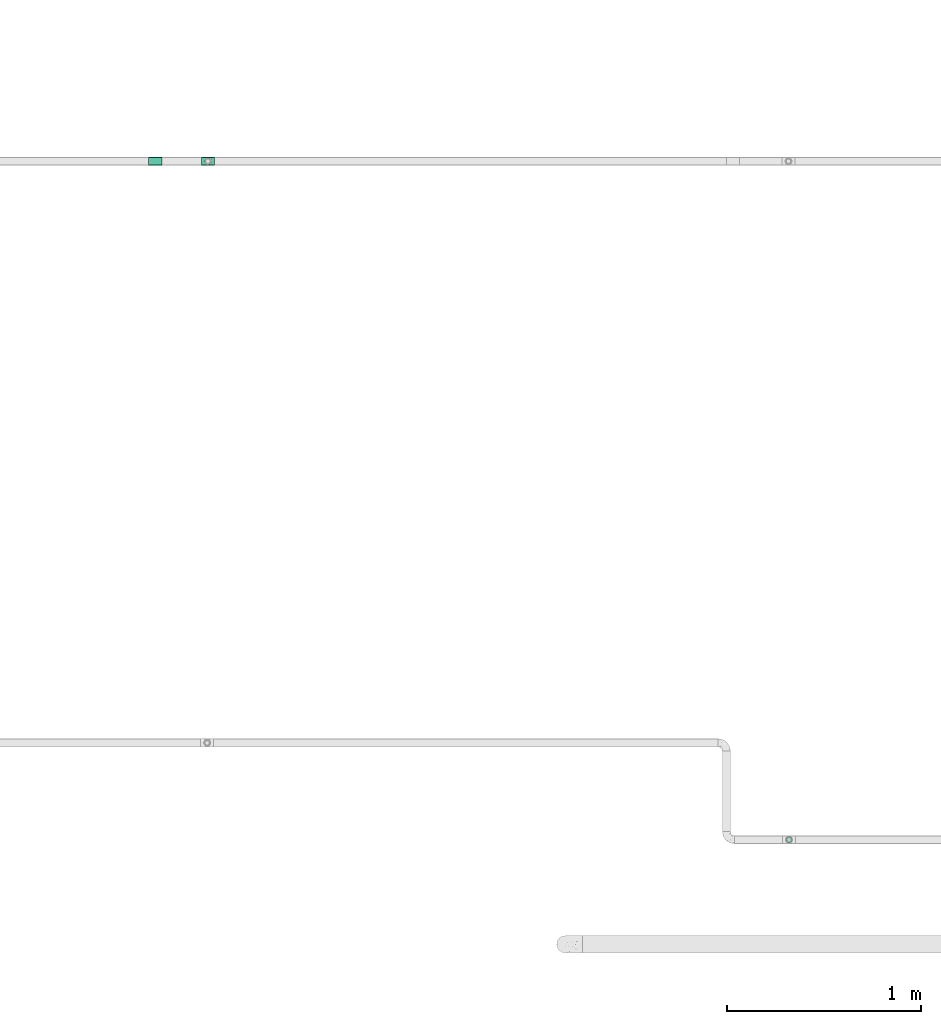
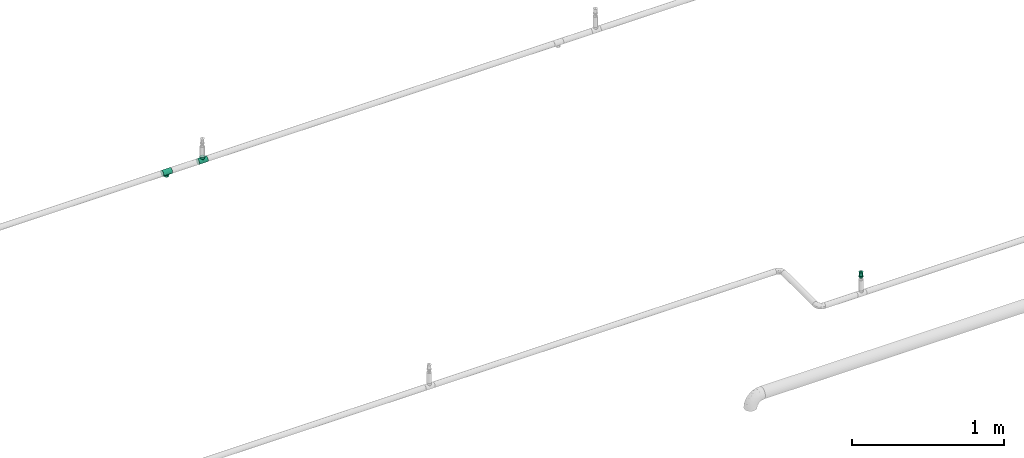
# One storey, part 57 of 94: 2 flow fittings, 1 flow terminal.
"""IFC2X3 building model written with IfcOpenShell, lengths in millimetres."""

from ifc_helpers import new_model, entity, si_unit, converted_unit, derived_unit, direction, frame, origin_with_axes, place, context, subcontext, project, spatial, open_shell, surface_model, source, transform, mapped, type_object, element, save


model = new_model("IFC2X3")

# Units and contexts
model_context = context("Model", 3, precision=0.01, world=frame((0.0, 4.29681676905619e-09, 0.0)), true_north=direction((4.01073788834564e-13, 1.0)))
plan_context = context("Plan", 3, precision=0.01, world=frame((0.0, 4.29681676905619e-09, 0.0)), true_north=direction((4.01073788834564e-13, 1.0)))
body_context = subcontext(model_context, "Body", "Model", "MODEL_VIEW")
ifc_project = project(units=[converted_unit("PLANEANGLEUNIT", "DEGREE", entity("IfcPositiveLengthMeasure", 0.0174532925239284), si_unit("PLANEANGLEUNIT", "RADIAN"), dimensions=[0, 0, 0, 0, 0, 0, 0]), si_unit("AREAUNIT", "SQUARE_METRE"), si_unit("LENGTHUNIT", "METRE", prefix="MILLI"), si_unit("MASSUNIT", "GRAM", prefix="KILO"), si_unit("POWERUNIT", "WATT"), si_unit("PRESSUREUNIT", "PASCAL"), si_unit("FORCEUNIT", "NEWTON", prefix="KILO"), si_unit("ELECTRICCURRENTUNIT", "AMPERE"), si_unit("THERMODYNAMICTEMPERATUREUNIT", "DEGREE_CELSIUS"), si_unit("TIMEUNIT", "SECOND"), si_unit("VOLUMEUNIT", "CUBIC_METRE"), derived_unit("LINEARVELOCITYUNIT", [(si_unit("LENGTHUNIT", "METRE"), 1), (si_unit("TIMEUNIT", "SECOND"), -1)]), derived_unit("VOLUMETRICFLOWRATEUNIT", [(si_unit("VOLUMEUNIT", "CUBIC_METRE"), 1), (si_unit("TIMEUNIT", "SECOND"), -1)]), derived_unit("THERMALTRANSMITTANCEUNIT", [(si_unit("POWERUNIT", "WATT"), 1), (si_unit("THERMODYNAMICTEMPERATUREUNIT", "KELVIN"), -1), (si_unit("AREAUNIT", "SQUARE_METRE"), -1)])], contexts=[model_context, plan_context])

# Site, building, storey
site_placement = place(None, frame((0.0, -4.29681676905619e-09, 0.0), z_axis=(0.0, 0.0, 1.0), x_axis=(1.0, 0.0, 0.0)))
site = spatial("IfcSite", under=ifc_project, at=site_placement, CompositionType="ELEMENT")
building_placement = place(site_placement, frame((0.0, 4.29681676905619e-09, 0.0), z_axis=(0.0, 0.0, 1.0), x_axis=(1.0, 0.0, 0.0)))
building = spatial("IfcBuilding", under=site, at=building_placement, Name="mc-building", CompositionType="ELEMENT")
storey_placement = place(building_placement, frame((0.0, 0.0, 200300.0), z_axis=(0.0, 0.0, 1.0), x_axis=(1.0, 0.0, 0.0)))
storey = spatial("IfcBuildingStorey", under=building, at=storey_placement, Name="Nivå C", CompositionType="ELEMENT", Elevation=200300.0)

# Flow fittings
pipe_fitting_type = type_object("IfcPipeFittingType", Name="magi_pipe_fe_tee_centric_90_NOR", PredefinedType="JUNCTION")
shared_shape_1 = source(origin_with_axes(), body_context, "Body", "SurfaceModel", [
    surface_model("IfcShellBasedSurfaceModel", [(-33.8, 0.0, -21.2), (-33.8, -5.48696, -20.47763), (-33.8, 5.48696, -20.47763), (-33.8, 10.6, -18.35974), (-33.8, 14.99066, -14.99066), (-33.8, -20.47763, 5.48696), (-33.8, 18.35974, -10.6), (-33.8, 10.6, 18.35974), (-33.8, -14.99066, -14.99066), (-33.8, -18.35974, -10.6), (-33.8, -10.6, -18.35974), (-33.8, -20.47763, -5.48696), (-33.8, -21.2, 0.0), (-33.8, 18.35974, 10.6), (-33.8, 20.47763, -5.48696), (-33.8, 20.47763, 5.48696), (-33.8, 21.2, 0.0), (-33.8, 14.99066, 14.99066), (-33.8, 5.48696, 20.47763), (-33.8, 0.0, 21.2), (-33.8, -18.35974, 10.6), (-33.8, -14.99066, 14.99066), (-33.8, -10.6, 18.35974), (-33.8, -5.48696, 20.47763), (33.8, 5.48696, -20.47763), (33.8, -5.48696, -20.47763), (33.8, 0.0, -21.2), (33.8, 14.99066, -14.99066), (33.8, 10.6, -18.35974), (33.8, 18.35974, -10.6), (33.8, 20.47763, -5.48696), (33.8, -21.2, 0.0), (33.8, -10.6, -18.35974), (33.8, -18.35974, -10.6), (33.8, -14.99066, -14.99066), (33.8, -20.47763, -5.48696), (33.8, -20.47763, 5.48696), (33.8, 21.2, 0.0), (33.8, 20.47763, 5.48696), (33.8, 18.35974, 10.6), (33.8, 10.6, 18.35974), (33.8, 14.99066, 14.99066), (33.8, 0.0, 21.2), (33.8, 5.48696, 20.47763), (33.8, -14.99066, 14.99066), (33.8, -18.35974, 10.6), (33.8, -10.6, 18.35974), (33.8, -5.48696, 20.47763), (16.9, -21.2, 0.0), (15.78624, -20.32327, 6.03364), (12.81343, -18.11115, 11.01935), (8.52479, -15.37862, 14.59239), (3.07939, -13.16482, 16.61708), (-16.9, -21.2, 0.0), (-15.78686, -20.32375, 6.032), (-8.52604, -15.37932, 14.59166), (-3.0848, -13.16609, 16.61608), (-12.81602, -18.11299, 11.01634), (3.07939, -13.16482, -16.61708), (12.81343, -18.11115, -11.01935), (8.52479, -15.37862, -14.59239), (15.78624, -20.32327, -6.03364), (-3.0848, -13.16609, -16.61608), (-8.52604, -15.37932, -14.59166), (-12.81602, -18.11299, -11.01634), (-15.78686, -20.32375, -6.032), (4.37404, -31.8, -16.32415), (-16.9, -31.8, 0.0), (0.0, -31.8, -16.9), (14.63583, -31.8, -8.45), (8.45, -31.8, -14.63583), (16.32415, -31.8, -4.37404), (11.9501, -31.8, -11.9501), (-11.9501, -31.8, -11.9501), (-8.45, -31.8, -14.63583), (-4.37404, -31.8, -16.32415), (-14.63583, -31.8, -8.45), (-16.32415, -31.8, -4.37404), (16.9, -31.8, 0.0), (8.45, -31.8, 14.63583), (16.32415, -31.8, 4.37404), (14.63583, -31.8, 8.45), (-8.45, -31.8, 14.63583), (11.9501, -31.8, 11.9501), (4.37404, -31.8, 16.32415), (-16.32415, -31.8, 4.37404), (-11.9501, -31.8, 11.9501), (-14.63583, -31.8, 8.45), (0.0, -31.8, 16.9), (-4.37404, -31.8, 16.32415), (-16.34343, -20.76188, 3.016), (16.34312, -20.76163, 3.01682), (-0.00271, -13.16546, 16.61658), (16.34312, -20.76163, -3.01682), (-0.00271, -13.16546, -16.61658), (-16.34343, -20.76188, -3.016)], [open_shell([[[0, 1, 2]], [[3, 2, 4]], [[5, 2, 1]], [[4, 2, 6]], [[6, 2, 7]], [[8, 9, 10]], [[1, 10, 9]], [[9, 11, 1]], [[12, 1, 11]], [[5, 1, 12]], [[13, 14, 6]], [[13, 15, 16]], [[6, 7, 13]], [[5, 7, 2]], [[17, 13, 7]], [[18, 7, 19]], [[20, 21, 5]], [[22, 5, 21]], [[23, 19, 22]], [[7, 5, 22]], [[22, 19, 7]], [[16, 14, 13]], [[24, 25, 26]], [[27, 24, 28]], [[29, 30, 24]], [[29, 24, 27]], [[31, 24, 30]], [[32, 33, 34]], [[33, 32, 25]], [[33, 31, 35]], [[31, 33, 25]], [[25, 24, 31]], [[30, 36, 31]], [[37, 38, 39]], [[37, 39, 40]], [[37, 40, 36]], [[40, 39, 41]], [[42, 40, 43]], [[36, 44, 45]], [[44, 36, 46]], [[46, 42, 47]], [[46, 36, 40]], [[40, 42, 46]], [[37, 36, 30]], [[31, 36, 48]], [[49, 48, 36]], [[36, 45, 49]], [[45, 44, 50]], [[51, 50, 44]], [[52, 51, 44]], [[44, 46, 52]], [[45, 50, 49]], [[53, 54, 5]], [[5, 12, 53]], [[54, 20, 5]], [[55, 56, 21]], [[20, 57, 21]], [[57, 20, 54]], [[21, 57, 55]], [[56, 22, 21]], [[52, 22, 56]], [[19, 47, 42]], [[23, 46, 47]], [[18, 42, 43]], [[39, 38, 15]], [[17, 40, 41]], [[13, 41, 39]], [[43, 40, 7]], [[16, 38, 37]], [[22, 46, 23]], [[23, 47, 19]], [[18, 19, 42]], [[43, 7, 18]], [[7, 40, 17]], [[13, 17, 41]], [[15, 13, 39]], [[38, 16, 15]], [[46, 22, 52]], [[6, 30, 29]], [[14, 37, 30]], [[4, 29, 27]], [[26, 25, 1]], [[2, 28, 24]], [[0, 24, 26]], [[27, 28, 3]], [[10, 25, 32]], [[16, 37, 14]], [[14, 30, 6]], [[4, 6, 29]], [[27, 3, 4]], [[3, 28, 2]], [[0, 2, 24]], [[1, 0, 26]], [[25, 10, 1]], [[32, 58, 10]], [[34, 59, 60]], [[59, 34, 33]], [[60, 58, 34]], [[34, 58, 32]], [[35, 31, 48]], [[35, 61, 33]], [[61, 35, 48]], [[33, 61, 59]], [[62, 63, 8]], [[8, 64, 9]], [[64, 8, 63]], [[62, 8, 10]], [[65, 53, 11]], [[65, 11, 9]], [[11, 53, 12]], [[65, 9, 64]], [[58, 62, 10]], [[66, 67, 68]], [[69, 66, 70]], [[69, 71, 66]], [[69, 70, 72]], [[67, 66, 71]], [[68, 73, 74]], [[74, 75, 68]], [[76, 67, 77]], [[73, 68, 76]], [[67, 76, 68]], [[71, 78, 67]], [[79, 78, 80]], [[79, 80, 81]], [[82, 67, 79]], [[79, 81, 83]], [[82, 79, 84]], [[85, 86, 87]], [[86, 85, 82]], [[82, 88, 89]], [[85, 67, 82]], [[84, 88, 82]], [[79, 67, 78]], [[85, 90, 67]], [[57, 87, 86]], [[85, 87, 54]], [[86, 82, 55]], [[85, 54, 90]], [[90, 53, 67]], [[54, 87, 57]], [[91, 49, 80]], [[55, 89, 56]], [[55, 57, 86]], [[88, 52, 92]], [[55, 82, 89]], [[52, 88, 84]], [[79, 51, 84]], [[50, 83, 81]], [[83, 51, 79]], [[81, 80, 49]], [[83, 50, 51]], [[51, 52, 84]], [[78, 91, 80]], [[49, 50, 81]], [[91, 78, 48]], [[88, 56, 89]], [[92, 56, 88]], [[71, 93, 78]], [[59, 69, 72]], [[71, 69, 61]], [[72, 70, 60]], [[93, 48, 78]], [[61, 69, 59]], [[60, 66, 58]], [[60, 59, 72]], [[68, 62, 94]], [[60, 70, 66]], [[95, 67, 53]], [[95, 65, 77]], [[71, 61, 93]], [[75, 62, 68]], [[65, 76, 77]], [[73, 76, 64]], [[68, 58, 66]], [[75, 63, 62]], [[63, 75, 74]], [[74, 73, 63]], [[63, 73, 64]], [[64, 76, 65]], [[67, 95, 77]], [[94, 58, 68]]])]),
])
for number, where, z_axis, x_axis, name in (
    (1, (524502.26879, 413500.1625, 2850.0), (0.0, -1.0, 0.0), (-1.0, 0.0, 0.0), "magi_pipe_fe_tee_centric_90_NOR"),
    (2, (524230.7831, 413500.1625, 2850.0), (0.0, 1.0, 0.0), (-1.0, 0.0, 0.0), "magi_pipe_fe_tee_centric_90_NOR"),
):
    element("IfcFlowFitting", number, at=place(storey_placement, frame(where, z_axis=z_axis, x_axis=x_axis)), inside=storey, type_object=pipe_fitting_type, Name=name, context=body_context, shape_type="MappedRepresentation", body=[
        mapped(shared_shape_1, transform((0.0, 0.0, 0.0), scale=1.0)),
    ])

# Flow terminal
fire_suppression_terminal_type = type_object("IfcFireSuppressionTerminalType", Name="68DGR-STD-STÅENDE", PredefinedType="NOTDEFINED")
shared_shape_2 = source(origin_with_axes(), body_context, "Body", "SurfaceModel", [
    surface_model("IfcShellBasedSurfaceModel", [(12.55704, 3.36465, 21.14766), (13.0, 0.0, 21.14766), (12.55704, -3.36465, 21.14766), (-12.55704, -3.36465, 21.14766), (-11.25833, -6.5, 21.14766), (-11.25833, -6.5, 51.0), (3.36465, -12.55704, 51.0), (3.36465, -12.55704, 21.14766), (6.5, -11.25833, 21.14766), (9.19239, -9.19239, 21.14766), (11.25833, -6.5, 21.14766), (9.19239, -9.19239, 51.0), (6.5, -11.25833, 51.0), (11.25833, -6.5, 51.0), (12.55704, -3.36465, 51.0), (13.0, 0.0, 51.0), (9.19239, 9.19239, 51.0), (11.25833, 6.5, 21.14766), (9.19239, 9.19239, 21.14766), (11.25833, 6.5, 51.0), (12.55704, 3.36465, 51.0), (6.5, 11.25833, 51.0), (6.5, 11.25833, 21.14766), (3.36465, 12.55704, 21.14766), (3.36465, 12.55704, 51.0), (-11.25833, 6.5, 51.0), (-11.25833, 6.5, 21.14766), (-12.55704, 3.36465, 21.14766), (0.0, -2.5, 51.0), (-2.5, 0.0, 51.0), (0.0, 2.5, 51.0), (2.5, 0.0, 51.0), (11.31371, 11.31371, 53.0), (-11.31371, 11.31371, 53.0), (-11.31371, -11.31371, 53.0), (11.31371, -11.31371, 53.0), (1.62635, 1.62635, 51.0), (2.16506, 1.25, 51.0), (1.99186, 1.15, 51.0), (-1.76777, 1.76777, 51.0), (-1.25, 2.16506, 51.0), (-1.62635, 1.62635, 51.0), (1.99186, -1.15, 51.0), (2.16506, -1.25, 51.0), (1.62635, -1.62635, 51.0), (-1.62635, -1.62635, 51.0), (-1.25, -2.16506, 51.0), (-1.76777, -1.76777, 51.0), (0.0, 7.3, 0.0), (1.94114, 7.24444, 0.0), (1.88938, 7.05126, 0.0), (5.16188, 5.16188, 0.0), (6.49519, 3.75, 0.0), (6.32199, 3.65, 0.0), (-5.3033, 5.3033, 0.0), (-3.75, 6.49519, 0.0), (-5.16188, 5.16188, 0.0), (6.32199, -3.65, 0.0), (6.49519, -3.75, 0.0), (5.16188, -5.16188, 0.0), (1.88938, -7.05126, 0.0), (1.94114, -7.24444, 0.0), (0.0, -7.3, 0.0), (-5.16188, -5.16188, 0.0), (-3.75, -6.49519, 0.0), (-5.3033, -5.3033, 0.0), (-3.36465, 12.55704, 51.0), (-6.5, 11.25833, 51.0), (0.0, 13.0, 51.0), (-9.19239, 9.19239, 51.0), (0.0, -13.0, 51.0), (-9.19239, -9.19239, 51.0), (-12.55704, -3.36465, 51.0), (-6.5, -11.25833, 51.0), (-3.36465, -12.55704, 51.0), (-7.5, 0.0, -0.1), (-7.24444, 1.94114, 0.1), (-7.24444, 1.94114, -0.1), (-6.49519, 3.75, 0.1), (-6.49519, 3.75, -0.1), (-3.75, 6.49519, -0.1), (-5.3033, 5.3033, -0.1), (-3.75, 6.49519, 0.1), (-5.3033, 5.3033, 0.1), (-1.94114, 7.24444, -0.1), (-1.94114, 7.24444, 0.1), (-7.5, 0.0, 0.1), (0.0, 7.5, 0.1), (0.0, 7.5, -0.1), (1.94114, 7.24444, 0.1), (1.94114, 7.24444, -0.1), (3.75, 6.49519, 0.1), (3.75, 6.49519, -0.1), (6.49519, 3.75, -0.1), (5.3033, 5.3033, -0.1), (6.49519, 3.75, 0.1), (5.3033, 5.3033, 0.1), (7.24444, 1.94114, -0.1), (7.24444, 1.94114, 0.1), (7.5, 0.0, 0.1), (7.5, 0.0, -0.1), (-7.24444, -1.94114, 0.1), (7.24444, -1.94114, 0.1), (5.3033, -5.3033, 0.1), (6.49519, -3.75, 0.1), (-6.49519, -3.75, 0.1), (0.0, -7.5, 0.1), (1.94114, -7.24444, 0.1), (3.75, -6.49519, 0.1), (-3.75, -6.49519, 0.1), (-1.94114, -7.24444, 0.1), (-5.3033, -5.3033, 0.1), (0.0, -7.5, -0.1), (-6.49519, -3.75, -0.1), (1.94114, -7.24444, -0.1), (3.75, -6.49519, -0.1), (5.3033, -5.3033, -0.1), (7.24444, -1.94114, -0.1), (6.49519, -3.75, -0.1), (-3.75, -6.49519, -0.1), (-5.3033, -5.3033, -0.1), (-1.94114, -7.24444, -0.1), (-7.24444, -1.94114, -0.1), (16.0, 0.0, 53.0), (0.0, -16.0, 53.0), (-16.0, 0.0, 53.0), (0.0, 16.0, 53.0), (0.64705, 2.41481, 57.0), (0.0, 2.5, 57.0), (1.25, 2.16506, 57.0), (-2.5, 0.0, 57.0), (1.76777, 1.76777, 57.0), (2.41481, 0.64705, 57.0), (2.16506, 1.25, 57.0), (-0.64705, 2.41481, 57.0), (-1.25, 2.16506, 57.0), (-1.76777, 1.76777, 57.0), (-2.16506, 1.25, 57.0), (-2.41481, 0.64705, 57.0), (2.5, 0.0, 57.0), (1.76777, -1.76777, 57.0), (2.16506, -1.25, 57.0), (2.41481, -0.64705, 57.0), (-2.41481, -0.64705, 57.0), (0.64705, -2.41481, 57.0), (1.25, -2.16506, 57.0), (0.0, -2.5, 57.0), (-1.76777, -1.76777, 57.0), (-2.16506, -1.25, 57.0), (-1.25, -2.16506, 57.0), (-0.64705, -2.41481, 57.0), (1.15, -1.99186, 51.0), (1.76777, -1.76777, 51.0), (1.25, -2.16506, 51.0), (0.59528, -2.22163, 51.0), (0.0, -2.3, 51.0), (0.64705, -2.41481, 51.0), (2.22163, -0.59528, 51.0), (2.3, 0.0, 51.0), (2.41481, -0.64705, 51.0), (-0.64705, -2.41481, 51.0), (-0.59528, -2.22163, 51.0), (-1.15, -1.99186, 51.0), (-2.16506, -1.25, 51.0), (-1.99186, -1.15, 51.0), (-2.22163, -0.59528, 51.0), (-2.3, 0.0, 51.0), (-2.41481, -0.64705, 51.0), (2.22163, 0.59528, 51.0), (2.41481, 0.64705, 51.0), (1.76777, 1.76777, 51.0), (1.15, 1.99186, 51.0), (1.25, 2.16506, 51.0), (0.59528, 2.22163, 51.0), (0.0, 2.3, 51.0), (0.64705, 2.41481, 51.0), (-1.99186, 1.15, 51.0), (-2.16506, 1.25, 51.0), (-2.41481, 0.64705, 51.0), (-2.22163, 0.59528, 51.0), (-0.64705, 2.41481, 51.0), (-0.59528, 2.22163, 51.0), (-1.15, 1.99186, 51.0), (-2.22163, 0.59528, 56.8), (-1.99186, 1.15, 56.8), (-1.15, 1.99186, 56.8), (-1.62635, 1.62635, 56.8), (-0.59528, 2.22163, 56.8), (-2.3, 0.0, 56.8), (0.0, 2.3, 56.8), (0.59528, 2.22163, 56.8), (1.15, 1.99186, 56.8), (1.99186, 1.15, 56.8), (1.62635, 1.62635, 56.8), (2.22163, 0.59528, 56.8), (2.3, 0.0, 56.8), (2.22163, -0.59528, 56.8), (1.99186, -1.15, 56.8), (1.62635, -1.62635, 56.8), (1.15, -1.99186, 56.8), (0.59528, -2.22163, 56.8), (0.0, -2.3, 56.8), (-1.99186, -1.15, 56.8), (-2.22163, -0.59528, 56.8), (-1.62635, -1.62635, 56.8), (-0.59528, -2.22163, 56.8), (-1.15, -1.99186, 56.8), (8.0, -13.85641, 13.0), (4.1411, -15.45481, 13.0), (0.0, -16.0, 13.0), (-4.1411, -15.45481, 13.0), (15.45481, -4.1411, 13.0), (13.85641, -8.0, 13.0), (11.31371, -11.31371, 13.0), (-16.0, 0.0, 13.0), (-8.0, -13.85641, 13.0), (-11.31371, -11.31371, 13.0), (-13.85641, -8.0, 13.0), (-15.45481, -4.1411, 13.0), (15.45481, 4.1411, 13.0), (4.1411, 15.45481, 13.0), (13.85641, 8.0, 13.0), (8.0, 13.85641, 13.0), (11.31371, 11.31371, 13.0), (-15.45481, 4.1411, 13.0), (-11.31371, 11.31371, 13.0), (-8.0, 13.85641, 13.0), (-13.85641, 8.0, 13.0), (-4.1411, 15.45481, 13.0), (0.0, 16.0, 13.0), (16.0, 0.0, 13.0), (7.05126, 1.88938, 12.8), (1.88938, 7.05126, 12.8), (3.65, 6.32199, 12.8), (6.32199, 3.65, 12.8), (5.16188, 5.16188, 12.8), (7.3, 0.0, 12.8), (0.0, 7.3, 12.8), (-3.65, 6.32199, 12.8), (-1.88938, 7.05126, 12.8), (-5.16188, 5.16188, 12.8), (-7.05126, 1.88938, 12.8), (-6.32199, 3.65, 12.8), (7.05126, -1.88938, 12.8), (0.0, -7.3, 12.8), (6.32199, -3.65, 12.8), (3.65, -6.32199, 12.8), (5.16188, -5.16188, 12.8), (1.88938, -7.05126, 12.8), (-7.3, 0.0, 12.8), (-6.32199, -3.65, 12.8), (-7.05126, -1.88938, 12.8), (-1.88938, -7.05126, 12.8), (-5.16188, -5.16188, 12.8), (-3.65, -6.32199, 12.8), (-7.05126, 1.88938, 0.0), (-7.3, 0.0, 0.0), (-6.32199, 3.65, 0.0), (-3.65, 6.32199, 0.0), (-1.88938, 7.05126, 0.0), (3.65, 6.32199, 0.0), (7.05126, 1.88938, 0.0), (7.3, 0.0, 0.0), (3.75, 6.49519, 13.0), (1.94114, 7.24444, 13.0), (7.5, 0.0, 13.0), (5.3033, 5.3033, 13.0), (7.24444, 1.94114, 13.0), (6.49519, 3.75, 13.0), (-5.3033, 5.3033, 13.0), (-7.24444, -1.94114, 13.0), (-1.94114, 7.24444, 13.0), (-3.75, 6.49519, 13.0), (0.0, 7.5, 13.0), (-6.49519, 3.75, 13.0), (-7.24444, 1.94114, 13.0), (7.24444, -1.94114, 13.0), (5.3033, -5.3033, 13.0), (6.49519, -3.75, 13.0), (-6.49519, -3.75, 13.0), (0.0, -7.5, 13.0), (1.94114, -7.24444, 13.0), (3.75, -6.49519, 13.0), (-7.5, 0.0, 13.0), (-3.75, -6.49519, 13.0), (-1.94114, -7.24444, 13.0), (-5.3033, -5.3033, 13.0), (3.65, -6.32199, 0.0), (5.3033, -5.3033, 0.0), (3.75, -6.49519, 0.0), (0.0, -7.5, 0.0), (7.05126, -1.88938, 0.0), (7.24444, -1.94114, 0.0), (7.5, 0.0, 0.0), (-1.94114, -7.24444, 0.0), (-1.88938, -7.05126, 0.0), (-3.65, -6.32199, 0.0), (-6.49519, -3.75, 0.0), (-6.32199, -3.65, 0.0), (-7.05126, -1.88938, 0.0), (-7.24444, -1.94114, 0.0), (-7.5, 0.0, 0.0), (7.24444, 1.94114, 0.0), (5.3033, 5.3033, 0.0), (3.75, 6.49519, 0.0), (0.0, 7.5, 0.0), (-6.49519, 3.75, 0.0), (-7.24444, 1.94114, 0.0), (-1.94114, 7.24444, 0.0), (-12.55704, 3.36465, 51.0), (-13.0, 0.0, 51.0), (0.0, -13.0, 21.14766), (-3.36465, -12.55704, 21.14766), (-6.5, -11.25833, 21.14766), (-9.19239, -9.19239, 21.14766), (-13.0, 0.0, 21.14766), (-9.19239, 9.19239, 21.14766), (-6.5, 11.25833, 21.14766), (-3.36465, 12.55704, 21.14766), (0.0, 13.0, 21.14766), (11.31371, 11.31371, 19.0), (8.0, 13.85641, 19.0), (4.1411, 15.45481, 19.0), (-8.0, 13.85641, 19.0), (16.0, 0.0, 19.0), (15.45481, 4.1411, 19.0), (13.85641, 8.0, 19.0), (-4.1411, 15.45481, 19.0), (0.0, 16.0, 19.0), (-11.31371, 11.31371, 19.0), (-13.85641, 8.0, 19.0), (-15.45481, 4.1411, 19.0), (15.45481, -4.1411, 19.0), (11.31371, -11.31371, 19.0), (13.85641, -8.0, 19.0), (-16.0, 0.0, 19.0), (0.0, -16.0, 19.0), (4.1411, -15.45481, 19.0), (8.0, -13.85641, 19.0), (-13.85641, -8.0, 19.0), (-11.31371, -11.31371, 19.0), (-15.45481, -4.1411, 19.0), (-8.0, -13.85641, 19.0), (-4.1411, -15.45481, 19.0)], [open_shell([[[0, 1, 2]], [[3, 4, 5]], [[6, 7, 8]], [[9, 10, 11]], [[9, 11, 12]], [[10, 13, 11]], [[14, 13, 2]], [[1, 15, 14]], [[16, 17, 18]], [[0, 19, 20]], [[20, 15, 1]], [[21, 16, 18]], [[22, 23, 24]], [[16, 19, 17]], [[25, 26, 27]], [[28, 29, 30]], [[30, 31, 28]], [[31, 30, 32]], [[33, 30, 29]], [[29, 28, 34]], [[35, 28, 31]], [[36, 37, 38]], [[39, 40, 41]], [[42, 43, 44]], [[45, 46, 47]], [[48, 49, 50]], [[51, 52, 53]], [[54, 55, 56]], [[57, 58, 59]], [[60, 61, 62]], [[63, 64, 65]], [[66, 67, 68]], [[67, 24, 68]], [[69, 25, 67]], [[15, 20, 14]], [[70, 6, 12]], [[5, 71, 72]], [[73, 74, 71]], [[72, 71, 74]], [[75, 76, 77]], [[77, 78, 79]], [[80, 81, 82]], [[83, 81, 79]], [[84, 80, 85]], [[76, 78, 77]], [[75, 86, 76]], [[80, 82, 85]], [[82, 81, 83]], [[79, 78, 83]], [[84, 85, 87]], [[87, 88, 84]], [[88, 89, 90]], [[90, 91, 92]], [[93, 94, 95]], [[96, 94, 92]], [[97, 93, 98]], [[91, 96, 92]], [[90, 89, 91]], [[97, 98, 99]], [[98, 93, 95]], [[94, 96, 95]], [[97, 99, 100]], [[87, 89, 88]], [[91, 89, 99]], [[96, 91, 98]], [[91, 99, 98]], [[95, 96, 98]], [[89, 83, 101]], [[85, 82, 87]], [[83, 87, 82]], [[78, 76, 83]], [[89, 87, 83]], [[76, 101, 83]], [[102, 99, 89]], [[103, 104, 102]], [[89, 105, 103]], [[103, 106, 107]], [[108, 103, 107]], [[106, 103, 105]], [[89, 101, 105]], [[101, 76, 86]], [[109, 110, 111]], [[105, 111, 110]], [[106, 105, 110]], [[103, 102, 89]], [[112, 113, 114]], [[115, 114, 116]], [[117, 118, 116]], [[113, 116, 114]], [[116, 113, 117]], [[119, 120, 121]], [[113, 121, 120]], [[121, 113, 112]], [[113, 122, 117]], [[75, 77, 122]], [[100, 117, 122]], [[100, 81, 97]], [[93, 97, 90]], [[90, 92, 94]], [[93, 90, 94]], [[90, 97, 81]], [[79, 81, 77]], [[77, 81, 122]], [[84, 88, 80]], [[81, 80, 88]], [[81, 88, 90]], [[100, 122, 81]], [[100, 102, 117]], [[117, 104, 118]], [[115, 116, 108]], [[103, 116, 118]], [[114, 115, 107]], [[102, 104, 117]], [[100, 99, 102]], [[115, 108, 107]], [[108, 116, 103]], [[118, 104, 103]], [[114, 107, 106]], [[106, 112, 114]], [[112, 110, 121]], [[121, 109, 119]], [[113, 120, 105]], [[111, 120, 119]], [[122, 113, 101]], [[109, 111, 119]], [[121, 110, 109]], [[122, 101, 86]], [[101, 113, 105]], [[120, 111, 105]], [[122, 86, 75]], [[106, 110, 112]], [[31, 123, 35]], [[35, 124, 28]], [[124, 34, 28]], [[29, 34, 125]], [[33, 32, 126]], [[33, 125, 124]], [[124, 32, 33]], [[124, 35, 123]], [[124, 125, 34]], [[123, 32, 124]], [[29, 125, 33]], [[33, 126, 30]], [[126, 32, 30]], [[31, 32, 123]], [[127, 128, 129]], [[129, 130, 131]], [[132, 131, 130]], [[133, 131, 132]], [[130, 129, 128]], [[134, 135, 128]], [[136, 128, 135]], [[137, 138, 136]], [[128, 136, 130]], [[138, 130, 136]], [[139, 132, 130]], [[140, 141, 142]], [[143, 140, 139]], [[144, 140, 143]], [[145, 140, 144]], [[146, 144, 147]], [[139, 130, 143]], [[143, 148, 144]], [[149, 150, 147]], [[144, 148, 147]], [[146, 147, 150]], [[140, 142, 139]], [[151, 152, 153]], [[154, 151, 153]], [[155, 154, 156]], [[153, 156, 154]], [[28, 155, 156]], [[44, 152, 151]], [[157, 158, 159]], [[31, 159, 158]], [[43, 157, 159]], [[152, 44, 43]], [[157, 43, 42]], [[160, 161, 28]], [[161, 155, 28]], [[162, 161, 160]], [[160, 46, 162]], [[162, 46, 45]], [[47, 163, 164]], [[165, 164, 163]], [[45, 47, 164]], [[166, 165, 167]], [[163, 167, 165]], [[29, 166, 167]], [[168, 169, 31]], [[38, 169, 168]], [[169, 38, 37]], [[170, 37, 36]], [[171, 172, 170]], [[173, 172, 171]], [[174, 175, 173]], [[172, 173, 175]], [[30, 175, 174]], [[170, 36, 171]], [[39, 176, 177]], [[41, 176, 39]], [[178, 177, 176]], [[178, 179, 29]], [[176, 179, 178]], [[179, 166, 29]], [[180, 30, 181]], [[182, 180, 181]], [[182, 41, 40]], [[180, 182, 40]], [[181, 30, 174]], [[31, 158, 168]], [[29, 138, 178]], [[178, 137, 177]], [[40, 39, 135]], [[136, 39, 177]], [[180, 40, 134]], [[138, 137, 178]], [[29, 130, 138]], [[40, 135, 134]], [[135, 39, 136]], [[177, 137, 136]], [[180, 134, 128]], [[128, 30, 180]], [[30, 127, 175]], [[175, 129, 172]], [[37, 170, 133]], [[131, 170, 172]], [[169, 37, 132]], [[129, 131, 172]], [[175, 127, 129]], [[169, 132, 139]], [[132, 37, 133]], [[170, 131, 133]], [[169, 139, 31]], [[128, 127, 30]], [[179, 183, 166]], [[176, 184, 179]], [[185, 41, 182]], [[176, 41, 186]], [[187, 182, 181]], [[179, 184, 183]], [[183, 188, 166]], [[187, 185, 182]], [[186, 41, 185]], [[186, 184, 176]], [[189, 187, 181]], [[181, 174, 189]], [[173, 190, 174]], [[171, 191, 173]], [[192, 36, 38]], [[171, 36, 193]], [[194, 38, 168]], [[171, 193, 191]], [[191, 190, 173]], [[195, 194, 168]], [[192, 38, 194]], [[192, 193, 36]], [[158, 195, 168]], [[174, 190, 189]], [[31, 142, 159]], [[159, 141, 43]], [[153, 152, 145]], [[140, 152, 43]], [[156, 153, 144]], [[142, 141, 159]], [[31, 139, 142]], [[153, 145, 144]], [[145, 152, 140]], [[43, 141, 140]], [[156, 144, 146]], [[146, 28, 156]], [[28, 150, 160]], [[160, 149, 46]], [[163, 47, 148]], [[147, 47, 46]], [[167, 163, 143]], [[149, 147, 46]], [[160, 150, 149]], [[167, 143, 130]], [[143, 163, 148]], [[47, 147, 148]], [[167, 130, 29]], [[146, 150, 28]], [[190, 191, 193]], [[190, 193, 195]], [[194, 195, 193]], [[194, 193, 192]], [[190, 195, 186]], [[189, 185, 187]], [[185, 189, 186]], [[186, 183, 184]], [[186, 189, 190]], [[186, 196, 183]], [[186, 195, 196]], [[196, 197, 198]], [[196, 198, 199]], [[199, 200, 201]], [[199, 201, 196]], [[196, 201, 202]], [[188, 202, 203]], [[183, 202, 188]], [[204, 205, 206]], [[205, 204, 202]], [[201, 205, 202]], [[202, 183, 196]], [[157, 196, 158]], [[42, 197, 157]], [[199, 44, 151]], [[42, 44, 198]], [[200, 151, 154]], [[157, 197, 196]], [[196, 195, 158]], [[200, 199, 151]], [[198, 44, 199]], [[198, 197, 42]], [[201, 200, 154]], [[154, 155, 201]], [[161, 205, 155]], [[162, 206, 161]], [[202, 45, 164]], [[162, 45, 204]], [[203, 164, 165]], [[162, 204, 206]], [[206, 205, 161]], [[188, 203, 165]], [[202, 164, 203]], [[202, 204, 45]], [[166, 188, 165]], [[155, 205, 201]], [[207, 208, 209]], [[207, 209, 210]], [[211, 212, 213]], [[213, 207, 214]], [[211, 213, 214]], [[215, 216, 210]], [[217, 210, 216]], [[217, 218, 210]], [[218, 207, 210]], [[218, 214, 207]], [[214, 219, 211]], [[220, 219, 214]], [[221, 219, 220]], [[220, 222, 223]], [[221, 220, 223]], [[214, 224, 220]], [[225, 226, 227]], [[224, 227, 226]], [[228, 229, 226]], [[220, 224, 226]], [[226, 229, 220]], [[219, 230, 211]], [[231, 232, 233]], [[234, 233, 235]], [[231, 236, 232]], [[231, 233, 234]], [[232, 236, 237]], [[237, 238, 239]], [[238, 237, 240]], [[240, 241, 242]], [[240, 237, 236]], [[236, 241, 240]], [[236, 243, 241]], [[244, 243, 245]], [[246, 245, 247]], [[246, 248, 244]], [[246, 244, 245]], [[243, 244, 249]], [[249, 250, 251]], [[250, 249, 252]], [[253, 252, 254]], [[252, 253, 250]], [[249, 244, 252]], [[243, 249, 241]], [[255, 241, 256]], [[257, 242, 255]], [[238, 56, 258]], [[257, 56, 240]], [[239, 258, 259]], [[255, 242, 241]], [[241, 249, 256]], [[239, 238, 258]], [[240, 56, 238]], [[240, 242, 257]], [[237, 239, 259]], [[259, 48, 237]], [[50, 232, 48]], [[260, 233, 50]], [[234, 51, 53]], [[260, 51, 235]], [[231, 53, 261]], [[260, 235, 233]], [[233, 232, 50]], [[236, 231, 261]], [[234, 53, 231]], [[234, 235, 51]], [[262, 236, 261]], [[48, 232, 237]], [[263, 264, 265]], [[266, 263, 267]], [[263, 265, 267]], [[268, 266, 267]], [[264, 269, 270]], [[271, 272, 273]], [[269, 273, 272]], [[274, 275, 269]], [[264, 273, 269]], [[275, 270, 269]], [[276, 265, 264]], [[277, 278, 276]], [[264, 279, 277]], [[277, 280, 281]], [[282, 277, 281]], [[280, 277, 279]], [[264, 270, 279]], [[270, 275, 283]], [[284, 285, 286]], [[279, 286, 285]], [[280, 279, 285]], [[277, 276, 264]], [[287, 288, 289]], [[60, 287, 289]], [[290, 62, 61]], [[289, 61, 60]], [[59, 288, 287]], [[291, 262, 292]], [[293, 292, 262]], [[58, 291, 292]], [[288, 59, 58]], [[291, 58, 57]], [[294, 295, 290]], [[296, 295, 294]], [[294, 64, 296]], [[64, 63, 296]], [[295, 62, 290]], [[65, 297, 298]], [[299, 298, 297]], [[63, 65, 298]], [[256, 299, 300]], [[297, 300, 299]], [[301, 256, 300]], [[261, 302, 293]], [[53, 302, 261]], [[302, 53, 52]], [[303, 52, 51]], [[260, 304, 303]], [[50, 304, 260]], [[304, 50, 49]], [[305, 49, 48]], [[303, 51, 260]], [[54, 257, 306]], [[56, 257, 54]], [[307, 306, 257]], [[307, 255, 301]], [[257, 255, 307]], [[255, 256, 301]], [[308, 305, 259]], [[258, 308, 259]], [[55, 258, 56]], [[308, 258, 55]], [[259, 305, 48]], [[293, 262, 261]], [[301, 275, 307]], [[307, 274, 306]], [[55, 54, 272]], [[269, 54, 306]], [[308, 55, 271]], [[275, 274, 307]], [[301, 283, 275]], [[55, 272, 271]], [[272, 54, 269]], [[306, 274, 269]], [[308, 271, 273]], [[273, 305, 308]], [[305, 264, 49]], [[49, 263, 304]], [[52, 303, 268]], [[266, 303, 304]], [[302, 52, 267]], [[263, 266, 304]], [[49, 264, 263]], [[302, 267, 265]], [[267, 52, 268]], [[303, 266, 268]], [[302, 265, 293]], [[273, 264, 305]], [[293, 276, 292]], [[292, 278, 58]], [[289, 288, 282]], [[277, 288, 58]], [[61, 289, 281]], [[276, 278, 292]], [[293, 265, 276]], [[289, 282, 281]], [[282, 288, 277]], [[58, 278, 277]], [[61, 281, 280]], [[280, 290, 61]], [[290, 285, 294]], [[294, 284, 64]], [[297, 65, 279]], [[286, 65, 64]], [[300, 297, 270]], [[284, 286, 64]], [[294, 285, 284]], [[300, 270, 283]], [[270, 297, 279]], [[65, 286, 279]], [[300, 283, 301]], [[280, 285, 290]], [[291, 243, 262]], [[57, 245, 291]], [[246, 59, 287]], [[57, 59, 247]], [[248, 287, 60]], [[291, 245, 243]], [[243, 236, 262]], [[248, 246, 287]], [[247, 59, 246]], [[247, 245, 57]], [[244, 248, 60]], [[60, 62, 244]], [[295, 252, 62]], [[296, 254, 295]], [[250, 63, 298]], [[296, 63, 253]], [[251, 298, 299]], [[296, 253, 254]], [[254, 252, 295]], [[249, 251, 299]], [[250, 298, 251]], [[250, 253, 63]], [[256, 249, 299]], [[62, 252, 244]], [[16, 21, 24]], [[20, 16, 24]], [[24, 67, 72]], [[19, 16, 20]], [[24, 72, 20]], [[25, 72, 67]], [[309, 310, 25]], [[11, 13, 14]], [[72, 11, 20]], [[74, 12, 11]], [[12, 74, 70]], [[72, 25, 310]], [[72, 74, 11]], [[11, 14, 20]], [[8, 7, 311]], [[8, 311, 312]], [[2, 10, 9]], [[3, 9, 8]], [[3, 26, 9]], [[313, 314, 312]], [[3, 312, 314]], [[4, 3, 314]], [[3, 8, 312]], [[315, 26, 3]], [[2, 9, 26]], [[0, 2, 26]], [[17, 0, 18]], [[23, 22, 18]], [[0, 23, 18]], [[23, 0, 26]], [[316, 317, 26]], [[26, 315, 27]], [[318, 319, 317]], [[23, 26, 317]], [[23, 317, 319]], [[316, 26, 25]], [[318, 317, 67]], [[69, 317, 316]], [[319, 318, 66]], [[310, 309, 315]], [[27, 315, 309]], [[25, 27, 309]], [[25, 69, 316]], [[317, 69, 67]], [[67, 66, 318]], [[66, 68, 319]], [[22, 21, 18]], [[0, 17, 19]], [[1, 0, 20]], [[68, 24, 23]], [[24, 21, 22]], [[319, 68, 23]], [[1, 14, 2]], [[2, 13, 10]], [[6, 311, 7]], [[6, 8, 12]], [[12, 8, 9]], [[6, 70, 311]], [[313, 312, 74]], [[313, 73, 314]], [[71, 4, 314]], [[315, 3, 72]], [[70, 74, 312]], [[74, 73, 313]], [[73, 71, 314]], [[71, 5, 4]], [[3, 5, 72]], [[72, 310, 315]], [[311, 70, 312]], [[320, 321, 322]], [[320, 322, 323]], [[320, 324, 325]], [[326, 320, 325]], [[324, 320, 323]], [[327, 323, 328]], [[323, 322, 328]], [[329, 330, 323]], [[331, 323, 330]], [[323, 331, 324]], [[331, 332, 324]], [[333, 334, 332]], [[335, 333, 331]], [[336, 337, 338]], [[335, 338, 333]], [[338, 335, 336]], [[339, 340, 341]], [[335, 341, 340]], [[342, 343, 340]], [[335, 340, 343]], [[343, 336, 335]], [[332, 331, 333]], [[214, 331, 224]], [[224, 330, 227]], [[226, 225, 323]], [[329, 225, 227]], [[228, 226, 327]], [[331, 330, 224]], [[214, 335, 331]], [[226, 323, 327]], [[323, 225, 329]], [[227, 330, 329]], [[228, 327, 328]], [[328, 229, 228]], [[229, 322, 220]], [[220, 321, 222]], [[221, 223, 326]], [[320, 223, 222]], [[219, 221, 325]], [[321, 320, 222]], [[220, 322, 321]], [[219, 325, 324]], [[325, 221, 326]], [[223, 320, 326]], [[219, 324, 230]], [[328, 322, 229]], [[230, 332, 211]], [[211, 334, 212]], [[207, 213, 338]], [[333, 213, 212]], [[208, 207, 337]], [[332, 334, 211]], [[230, 324, 332]], [[207, 338, 337]], [[338, 213, 333]], [[212, 334, 333]], [[208, 337, 336]], [[336, 209, 208]], [[209, 343, 210]], [[210, 342, 215]], [[217, 216, 339]], [[340, 216, 215]], [[218, 217, 341]], [[342, 340, 215]], [[210, 343, 342]], [[218, 341, 335]], [[341, 217, 339]], [[216, 340, 339]], [[218, 335, 214]], [[336, 343, 209]]])]),
])
flow_terminal_placement = place(storey_placement, frame((527500.33534, 410000.1625, 2972.0), z_axis=(0.0, 0.0, 1.0), x_axis=(-1.0, 0.0, 0.0)))
element("IfcFlowTerminal", 3, at=flow_terminal_placement, inside=storey, type_object=fire_suppression_terminal_type, Name="68DGR-STD-STÅENDE", context=body_context, shape_type="MappedRepresentation", body=[
    mapped(shared_shape_2, transform((0.0, 0.0, 0.0), scale=1.0)),
])

save(model, "model.ifc")
